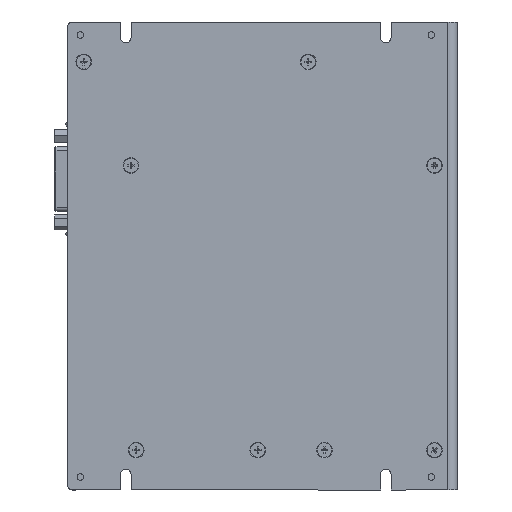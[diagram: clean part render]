
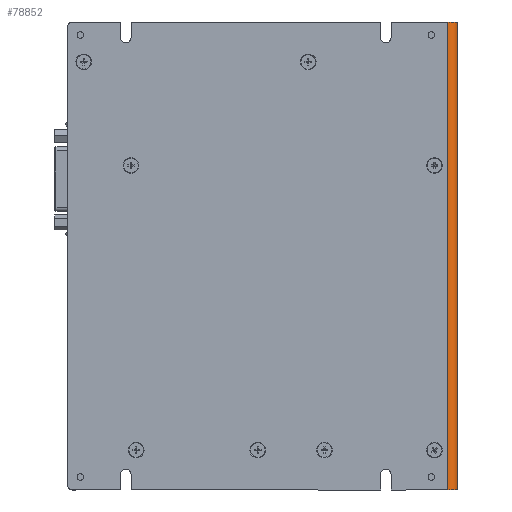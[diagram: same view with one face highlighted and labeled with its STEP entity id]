
A CAD part, front view. The second image highlights one B-rep face of the part: STEP entity #78852.
In plain terms, the highlighted cylindrical face has radius 3.6 mm (diameter 7.2 mm), a partial arc.
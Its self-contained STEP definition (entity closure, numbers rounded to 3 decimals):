
#10295 = DIRECTION ( 'NONE',  ( -1., 0., 0. ) ) ;
#10303 = DIRECTION ( 'NONE',  ( 0., 0., 1. ) ) ;
#10313 = CARTESIAN_POINT ( 'NONE',  ( -3.6, 3.6, -90. ) ) ;
#10908 = DIRECTION ( 'NONE',  ( 0., 0., -1. ) ) ;
#10911 = CARTESIAN_POINT ( 'NONE',  ( -3.6, 0., 90. ) ) ;
#13401 = EDGE_CURVE ( 'NONE', #118885, #84114, #33966, .T. ) ;
#13565 = EDGE_CURVE ( 'NONE', #118591, #118885, #122370, .T. ) ;
#19191 = DIRECTION ( 'NONE',  ( -1., 0., 0. ) ) ;
#19198 = DIRECTION ( 'NONE',  ( 0., 0., -1. ) ) ;
#19199 = CARTESIAN_POINT ( 'NONE',  ( -3.6, 3.6, 355.682 ) ) ;
#31839 = EDGE_LOOP ( 'NONE', ( #127471, #122952, #122936, #122523 ) ) ;
#33966 = CIRCLE ( 'NONE', #105694, 3.6 ) ;
#55538 = AXIS2_PLACEMENT_3D ( 'NONE', #19199, #19198, #19191 ) ;
#78852 = ADVANCED_FACE ( 'NONE', ( #86503 ), #86507, .T. ) ;
#84114 = VERTEX_POINT ( 'NONE', #134857 ) ;
#84244 = VERTEX_POINT ( 'NONE', #134987 ) ;
#85707 = CARTESIAN_POINT ( 'NONE',  ( -3.6, 0., -90. ) ) ;
#86503 = FACE_OUTER_BOUND ( 'NONE', #31839, .T. ) ;
#86507 = CYLINDRICAL_SURFACE ( 'NONE', #55538, 3.6 ) ;
#99431 = CARTESIAN_POINT ( 'NONE',  ( 0., 3.6, 90. ) ) ;
#99453 = DIRECTION ( 'NONE',  ( 0., 0., -1. ) ) ;
#99867 = CARTESIAN_POINT ( 'NONE',  ( -3.6, 3.6, 90. ) ) ;
#99869 = DIRECTION ( 'NONE',  ( 0., 0., -1. ) ) ;
#99870 = DIRECTION ( 'NONE',  ( -1., 0., 0. ) ) ;
#105694 = AXIS2_PLACEMENT_3D ( 'NONE', #10313, #10303, #10295 ) ;
#112190 = CARTESIAN_POINT ( 'NONE',  ( -3.6, 0., 90. ) ) ;
#118591 = VERTEX_POINT ( 'NONE', #112190 ) ;
#118885 = VERTEX_POINT ( 'NONE', #85707 ) ;
#122370 = LINE ( 'NONE', #10911, #122376 ) ;
#122376 = VECTOR ( 'NONE', #10908, 1000. ) ;
#122523 = ORIENTED_EDGE ( 'NONE', *, *, #130105, .F. ) ;
#122936 = ORIENTED_EDGE ( 'NONE', *, *, #13401, .T. ) ;
#122952 = ORIENTED_EDGE ( 'NONE', *, *, #13565, .T. ) ;
#127471 = ORIENTED_EDGE ( 'NONE', *, *, #138711, .T. ) ;
#130105 = EDGE_CURVE ( 'NONE', #84244, #84114, #137162, .T. ) ;
#134708 = AXIS2_PLACEMENT_3D ( 'NONE', #99867, #99869, #99870 ) ;
#134857 = CARTESIAN_POINT ( 'NONE',  ( 0., 3.6, -90. ) ) ;
#134987 = CARTESIAN_POINT ( 'NONE',  ( 0., 3.6, 90. ) ) ;
#137162 = LINE ( 'NONE', #99431, #137166 ) ;
#137166 = VECTOR ( 'NONE', #99453, 1000. ) ;
#137411 = CIRCLE ( 'NONE', #134708, 3.6 ) ;
#138711 = EDGE_CURVE ( 'NONE', #84244, #118591, #137411, .T. ) ;
